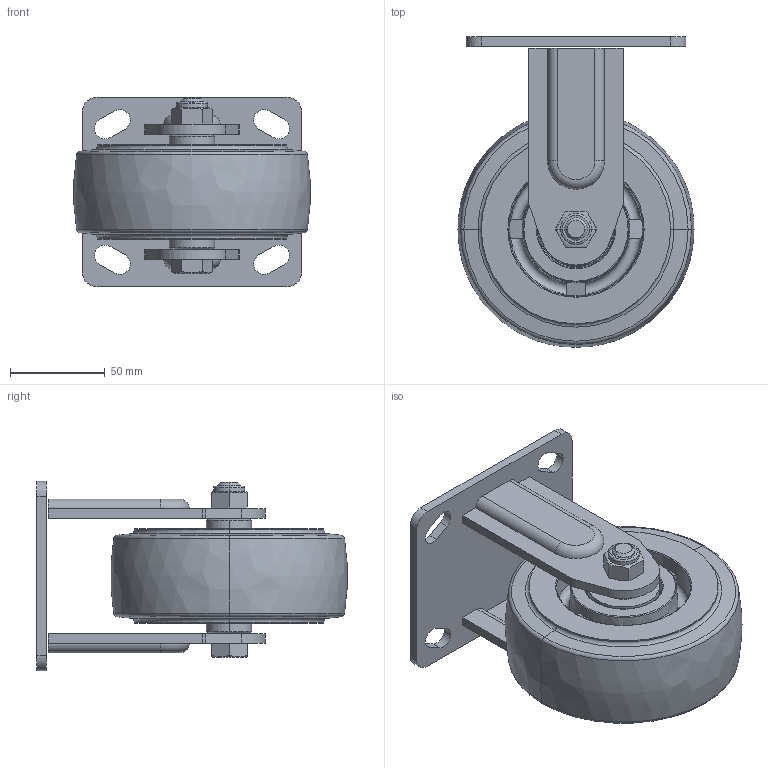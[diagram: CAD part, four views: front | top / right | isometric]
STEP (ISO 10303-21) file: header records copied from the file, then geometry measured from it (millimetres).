
FILE_DESCRIPTION((''),'2;1');
FILE_NAME('S7575-301_ASM','2026-07-21T',('Lenovo'),(''),'PRO/ENGINEER BY PARAMETRIC TECHNOLOGY CORPORATION, 2010280','PRO/ENGINEER BY PARAMETRIC TECHNOLOGY CORPORATION, 2010280','');
FILE_SCHEMA(('CONFIG_CONTROL_DESIGN'));
Length unit declared in the file: millimetre
Products named in the file (10): S7500-200; S7505-351; 735-986; 6203; 700-67; 700-54; 735-86_ASM; 700-33; 700-34; S7575-301_ASM
Assembly tree (11 placements, depth 3):
  S7575-301_ASM
    S7500-200
    S7505-351
    735-86_ASM
      735-986
      6203  x2
      700-67  x2
      700-54
    700-33
    700-34
Bounding box: 124.65 x 163.83 x 100 mm (x, y, z)
Volume: 640803 mm3; surface area: 137620.1 mm2
Topology: 37 solids, 37 shells, 352 faces, 855 edges, 492 vertices
Faces by surface type: plane 111, cylinder 89, torus 66, sphere 48, cone 36, bspline 2
Entity records: 8834 total; most frequent: CARTESIAN_POINT 2018, DIRECTION 1491, ORIENTED_EDGE 1302, EDGE_CURVE 651, AXIS2_PLACEMENT_3D 625, VERTEX_POINT 418, EDGE_LOOP 319, CIRCLE 314
